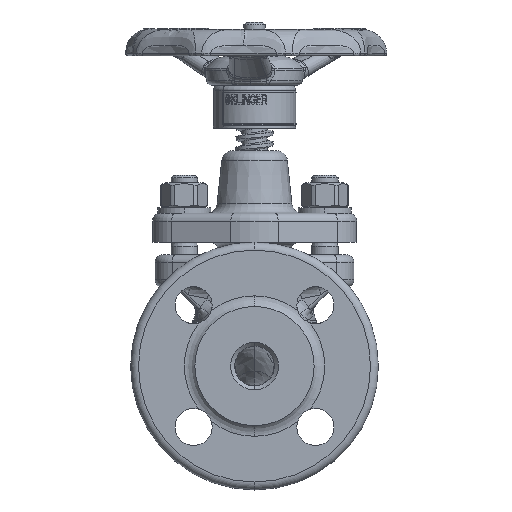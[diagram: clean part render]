
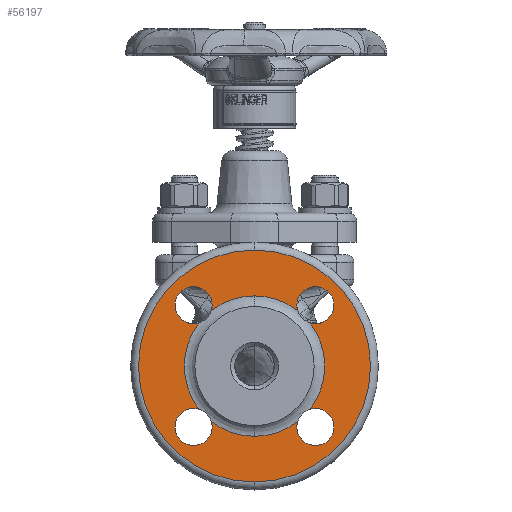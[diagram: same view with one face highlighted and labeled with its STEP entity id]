
A CAD part, left-side view. The second image highlights one B-rep face of the part: STEP entity #56197.
In plain terms, the highlighted planar face has unit normal (-1, 0, 0).
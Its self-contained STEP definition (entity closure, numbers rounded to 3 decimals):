
#10567=CARTESIAN_POINT('',(-63.,0.,0.));
#10568=DIRECTION('',(-1.,0.,0.));
#10569=DIRECTION('',(0.,0.788,0.615));
#10570=AXIS2_PLACEMENT_3D('',#10567,#10568,#10569);
#10597=CARTESIAN_POINT('',(-63.,0.,0.));
#10598=DIRECTION('',(-1.,0.,0.));
#10599=DIRECTION('',(0.,0.,1.));
#10600=AXIS2_PLACEMENT_3D('',#10597,#10598,#10599);
#10607=CARTESIAN_POINT('',(-63.,0.,0.));
#10608=DIRECTION('',(-1.,0.,0.));
#10609=DIRECTION('',(0.,0.615,-0.788));
#10610=AXIS2_PLACEMENT_3D('',#10607,#10608,#10609);
#10842=CARTESIAN_POINT('',(-63.,0.,0.));
#10843=DIRECTION('',(-1.,0.,0.));
#10844=DIRECTION('',(0.,0.,1.));
#10845=AXIS2_PLACEMENT_3D('',#10842,#10843,#10844);
#10847=CARTESIAN_POINT('',(-63.,0.,0.));
#10848=DIRECTION('',(-1.,0.,0.));
#10849=DIRECTION('',(0.,0.,-1.));
#10850=AXIS2_PLACEMENT_3D('',#10847,#10848,#10849);
#10852=CARTESIAN_POINT('',(-63.,-22.981,22.981));
#10853=DIRECTION('',(-1.,0.,0.));
#10854=DIRECTION('',(0.,-1.,0.));
#10855=AXIS2_PLACEMENT_3D('',#10852,#10853,#10854);
#10857=CARTESIAN_POINT('',(-63.,-22.981,22.981));
#10858=DIRECTION('',(-1.,0.,0.));
#10859=DIRECTION('',(0.,1.,0.));
#10860=AXIS2_PLACEMENT_3D('',#10857,#10858,#10859);
#10862=CARTESIAN_POINT('',(-63.,22.981,22.981));
#10863=DIRECTION('',(-1.,0.,0.));
#10864=DIRECTION('',(0.,-0.955,-0.298));
#10865=AXIS2_PLACEMENT_3D('',#10862,#10863,#10864);
#10867=CARTESIAN_POINT('',(-63.,22.981,22.981));
#10868=DIRECTION('',(-1.,0.,0.));
#10869=DIRECTION('',(0.,-1.,0.));
#10870=AXIS2_PLACEMENT_3D('',#10867,#10868,#10869);
#10872=CARTESIAN_POINT('',(-63.,22.981,22.981));
#10873=DIRECTION('',(-1.,0.,0.));
#10874=DIRECTION('',(0.,1.,0.));
#10875=AXIS2_PLACEMENT_3D('',#10872,#10873,#10874);
#10877=CARTESIAN_POINT('',(-63.,22.981,-22.981));
#10878=DIRECTION('',(-1.,0.,0.));
#10879=DIRECTION('',(0.,-0.298,0.955));
#10880=AXIS2_PLACEMENT_3D('',#10877,#10878,#10879);
#10882=CARTESIAN_POINT('',(-63.,22.981,-22.981));
#10883=DIRECTION('',(-1.,0.,0.));
#10884=DIRECTION('',(0.,1.,0.));
#10885=AXIS2_PLACEMENT_3D('',#10882,#10883,#10884);
#10887=CARTESIAN_POINT('',(-63.,22.981,-22.981));
#10888=DIRECTION('',(-1.,0.,0.));
#10889=DIRECTION('',(0.,-1.,0.));
#10890=AXIS2_PLACEMENT_3D('',#10887,#10888,#10889);
#10892=CARTESIAN_POINT('',(-63.,-22.981,-22.981));
#10893=DIRECTION('',(-1.,0.,0.));
#10894=DIRECTION('',(0.,0.955,0.298));
#10895=AXIS2_PLACEMENT_3D('',#10892,#10893,#10894);
#10897=CARTESIAN_POINT('',(-63.,-22.981,-22.981));
#10898=DIRECTION('',(-1.,0.,0.));
#10899=DIRECTION('',(0.,1.,0.));
#10900=AXIS2_PLACEMENT_3D('',#10897,#10898,#10899);
#10902=CARTESIAN_POINT('',(-63.,-22.981,-22.981));
#10903=DIRECTION('',(-1.,0.,0.));
#10904=DIRECTION('',(0.,-1.,0.));
#10905=AXIS2_PLACEMENT_3D('',#10902,#10903,#10904);
#10907=CARTESIAN_POINT('',(-63.,-22.981,22.981));
#10908=DIRECTION('',(-1.,0.,0.));
#10909=DIRECTION('',(0.,0.298,-0.955));
#10910=AXIS2_PLACEMENT_3D('',#10907,#10908,#10909);
#10973=CARTESIAN_POINT('',(-63.,0.,0.));
#10974=DIRECTION('',(1.,0.,0.));
#10975=DIRECTION('',(0.,-0.788,0.615));
#10976=AXIS2_PLACEMENT_3D('',#10973,#10974,#10975);
#11003=CARTESIAN_POINT('',(-63.,0.,0.));
#11004=DIRECTION('',(1.,0.,0.));
#11005=DIRECTION('',(0.,-0.615,-0.788));
#11006=AXIS2_PLACEMENT_3D('',#11003,#11004,#11005);
#11023=CARTESIAN_POINT('',(-63.,0.,0.));
#11024=DIRECTION('',(1.,0.,0.));
#11025=DIRECTION('',(0.,0.,1.));
#11026=AXIS2_PLACEMENT_3D('',#11023,#11024,#11025);
#32204=CARTESIAN_POINT('',(-63.,0.,43.75));
#32205=CARTESIAN_POINT('',(-63.,0.,-43.75));
#32206=VERTEX_POINT('',#32204);
#32207=VERTEX_POINT('',#32205);
#32684=CARTESIAN_POINT('',(-63.,0.,26.5));
#32685=VERTEX_POINT('',#32684);
#32686=CARTESIAN_POINT('',(-63.,0.,-26.5));
#32687=VERTEX_POINT('',#32686);
#32718=CARTESIAN_POINT('',(-63.,15.981,22.981));
#32719=CARTESIAN_POINT('',(-63.,29.981,22.981));
#32720=VERTEX_POINT('',#32718);
#32721=VERTEX_POINT('',#32719);
#32722=CARTESIAN_POINT('',(-63.,20.895,16.299));
#32723=VERTEX_POINT('',#32722);
#32724=CARTESIAN_POINT('',(-63.,16.299,20.895));
#32725=VERTEX_POINT('',#32724);
#32730=CARTESIAN_POINT('',(-63.,15.981,-22.981));
#32731=CARTESIAN_POINT('',(-63.,16.299,-20.895));
#32732=VERTEX_POINT('',#32730);
#32733=VERTEX_POINT('',#32731);
#32734=CARTESIAN_POINT('',(-63.,20.895,-16.299));
#32735=CARTESIAN_POINT('',(-63.,29.981,-22.981));
#32736=VERTEX_POINT('',#32734);
#32737=VERTEX_POINT('',#32735);
#32742=CARTESIAN_POINT('',(-63.,-29.981,-22.981));
#32743=CARTESIAN_POINT('',(-63.,-20.895,-16.299));
#32744=VERTEX_POINT('',#32742);
#32745=VERTEX_POINT('',#32743);
#32746=CARTESIAN_POINT('',(-63.,-16.299,-20.895));
#32747=CARTESIAN_POINT('',(-63.,-15.981,-22.981));
#32748=VERTEX_POINT('',#32746);
#32749=VERTEX_POINT('',#32747);
#32754=CARTESIAN_POINT('',(-63.,-29.981,22.981));
#32755=CARTESIAN_POINT('',(-63.,-15.981,22.981));
#32756=VERTEX_POINT('',#32754);
#32757=VERTEX_POINT('',#32755);
#32758=CARTESIAN_POINT('',(-63.,-16.299,20.895));
#32759=VERTEX_POINT('',#32758);
#32760=CARTESIAN_POINT('',(-63.,-20.895,16.299));
#32761=VERTEX_POINT('',#32760);
#56154=CARTESIAN_POINT('',(-63.,0.,0.));
#56155=DIRECTION('',(-1.,0.,0.));
#56156=DIRECTION('',(0.,0.,1.));
#56157=AXIS2_PLACEMENT_3D('',#56154,#56155,#56156);
#56158=PLANE('',#56157);
#56159=ORIENTED_EDGE('',*,*,#56144,.F.);
#56161=ORIENTED_EDGE('',*,*,#56160,.F.);
#56162=EDGE_LOOP('',(#56159,#56161));
#56163=FACE_OUTER_BOUND('',#56162,.F.);
#56165=ORIENTED_EDGE('',*,*,#56164,.T.);
#56167=ORIENTED_EDGE('',*,*,#56166,.T.);
#56169=ORIENTED_EDGE('',*,*,#56168,.F.);
#56170=ORIENTED_EDGE('',*,*,#56037,.T.);
#56172=ORIENTED_EDGE('',*,*,#56171,.T.);
#56174=ORIENTED_EDGE('',*,*,#56173,.T.);
#56176=ORIENTED_EDGE('',*,*,#56175,.T.);
#56177=ORIENTED_EDGE('',*,*,#56033,.T.);
#56178=ORIENTED_EDGE('',*,*,#56058,.T.);
#56180=ORIENTED_EDGE('',*,*,#56179,.T.);
#56181=ORIENTED_EDGE('',*,*,#56061,.T.);
#56182=ORIENTED_EDGE('',*,*,#56044,.T.);
#56184=ORIENTED_EDGE('',*,*,#56183,.F.);
#56186=ORIENTED_EDGE('',*,*,#56185,.T.);
#56188=ORIENTED_EDGE('',*,*,#56187,.T.);
#56190=ORIENTED_EDGE('',*,*,#56189,.T.);
#56192=ORIENTED_EDGE('',*,*,#56191,.F.);
#56194=ORIENTED_EDGE('',*,*,#56193,.T.);
#56195=EDGE_LOOP('',(#56165,#56167,#56169,#56170,#56172,#56174,#56176,#56177,
#56178,#56180,#56181,#56182,#56184,#56186,#56188,#56190,#56192,#56194));
#56196=FACE_BOUND('',#56195,.F.);
#56197=ADVANCED_FACE('',(#56163,#56196),#56158,.T.);
#10571=CIRCLE('',#10570,26.5);
#10601=CIRCLE('',#10600,26.5);
#10611=CIRCLE('',#10610,26.5);
#10846=CIRCLE('',#10845,43.75);
#10851=CIRCLE('',#10850,43.75);
#10856=CIRCLE('',#10855,7.);
#10861=CIRCLE('',#10860,7.);
#10866=CIRCLE('',#10865,7.);
#10871=CIRCLE('',#10870,7.);
#10876=CIRCLE('',#10875,7.);
#10881=CIRCLE('',#10880,7.);
#10886=CIRCLE('',#10885,7.);
#10891=CIRCLE('',#10890,7.);
#10896=CIRCLE('',#10895,7.);
#10901=CIRCLE('',#10900,7.);
#10906=CIRCLE('',#10905,7.);
#10911=CIRCLE('',#10910,7.);
#10977=CIRCLE('',#10976,26.5);
#11007=CIRCLE('',#11006,26.5);
#11027=CIRCLE('',#11026,26.5);
#56033=EDGE_CURVE('',#32723,#32736,#10571,.T.);
#56037=EDGE_CURVE('',#32685,#32725,#10601,.T.);
#56044=EDGE_CURVE('',#32733,#32687,#10611,.T.);
#56058=EDGE_CURVE('',#32736,#32737,#10881,.T.);
#56061=EDGE_CURVE('',#32732,#32733,#10891,.T.);
#56144=EDGE_CURVE('',#32206,#32207,#10846,.T.);
#56160=EDGE_CURVE('',#32207,#32206,#10851,.T.);
#56164=EDGE_CURVE('',#32756,#32757,#10856,.T.);
#56166=EDGE_CURVE('',#32757,#32759,#10861,.T.);
#56168=EDGE_CURVE('',#32685,#32759,#11027,.T.);
#56171=EDGE_CURVE('',#32725,#32720,#10866,.T.);
#56173=EDGE_CURVE('',#32720,#32721,#10871,.T.);
#56175=EDGE_CURVE('',#32721,#32723,#10876,.T.);
#56179=EDGE_CURVE('',#32737,#32732,#10886,.T.);
#56183=EDGE_CURVE('',#32748,#32687,#11007,.T.);
#56185=EDGE_CURVE('',#32748,#32749,#10896,.T.);
#56187=EDGE_CURVE('',#32749,#32744,#10901,.T.);
#56189=EDGE_CURVE('',#32744,#32745,#10906,.T.);
#56191=EDGE_CURVE('',#32761,#32745,#10977,.T.);
#56193=EDGE_CURVE('',#32761,#32756,#10911,.T.);
